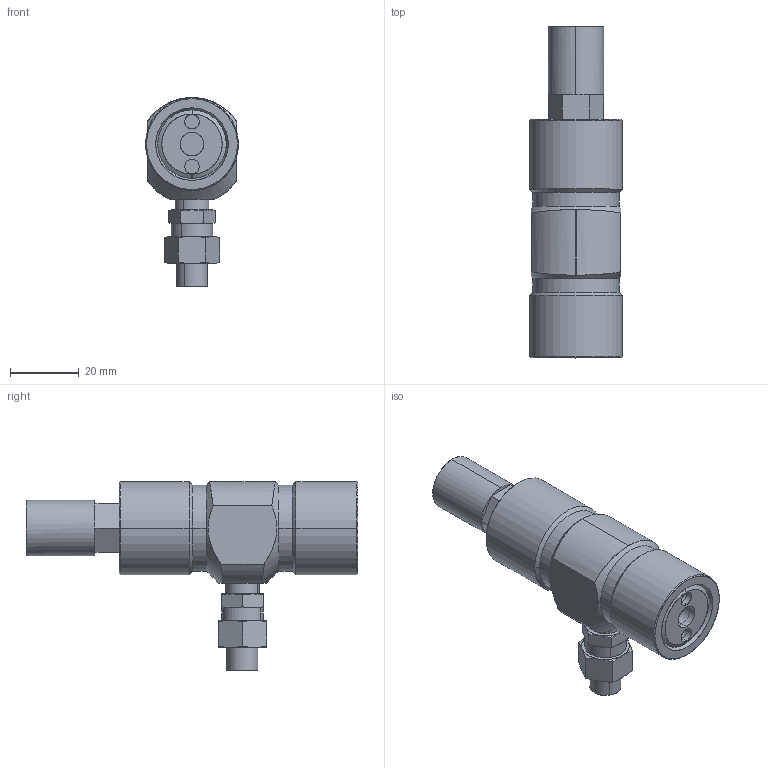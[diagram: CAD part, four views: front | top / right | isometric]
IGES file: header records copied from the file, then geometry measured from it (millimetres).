
Start section: SolidWorks IGES file using analytic representation for surfaces
Global section: file name: V:\WORK\08133\HP 寸法図\piston\EPV12A\test_F790000-000_defeature.IGS,15; native system: HSolidWorks 2018; preprocessor: SolidWorks 2018; author: n-udagawa; date: 230117.114704; units: millimetre
Bounding box: 27 x 96.3 x 54.8 mm (x, y, z)
Surface area: 11035.6 mm2 (no closed solid volume)
Topology: 0 solids, 0 shells, 116 faces, 1984 edges, 2238 vertices
Faces by surface type: revolution 71, bspline 45
